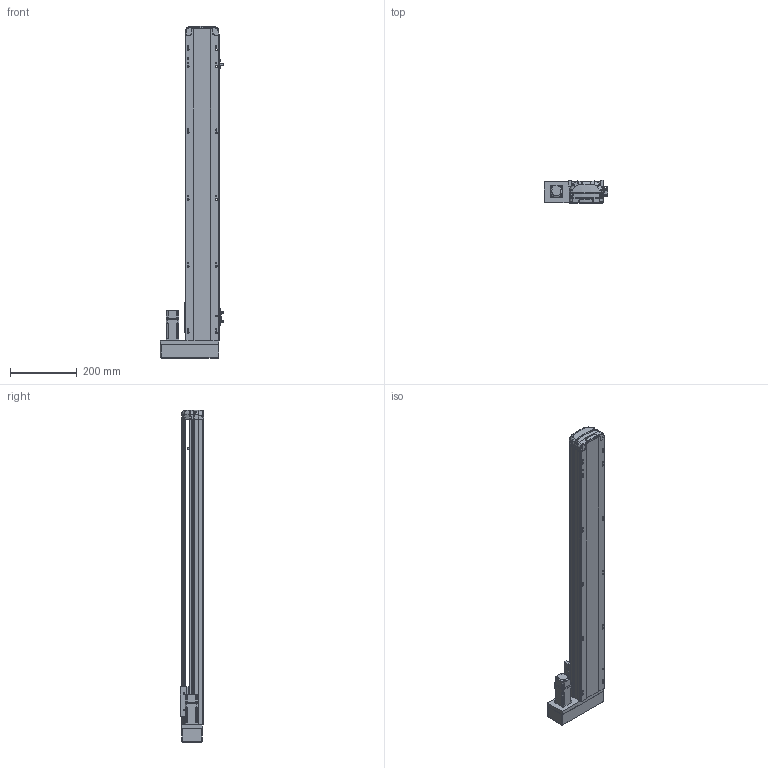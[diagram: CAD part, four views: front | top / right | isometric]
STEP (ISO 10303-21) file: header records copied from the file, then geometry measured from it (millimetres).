
FILE_DESCRIPTION (( 'STEP AP214' ), '1' );
FILE_NAME ('RTH10-XX-750-L-M10-C4.STEP', '2025-10-25T05:36:58', ( 'Microsoft' ), ( 'Microsoft' ), 'SwSTEP 2.0', 'SolidWorks 2018', '' );
FILE_SCHEMA (( 'AUTOMOTIVE_DESIGN' ));
Length unit declared in the file: millimetre
Products named in the file (10): N_P10^RTH10-XX-XX-L-M10-C4; N_OMRON EE-SX672 传感器^RTH10-XX-XX-L-M10-C4; N_RTH12-M-007P-奻裔^RTH10-XX-XX-L-M10-C4; N_RTH12-GY-001P^RTH10-XX-XX-L-M10-C4; N_RTH12-M-011P-臏倰第菁釱^RTH10-XX-XX-L-M10-C4; N_RTH13-L-012覜茼え俋离^RTH10-XX-XX-L-M10-C4; N_RTH12-L-018-裔赽^RTH10-XX-XX-L-M10-C4; N_RTH12-GY-004-賑釱^RTH10-XX-XX-L-M10-C4; N_RTH12-L-008萇儂啣^RTH10-XX-XX-L-M10-C4; RTH10-XX-750-L-M10-C4
Assembly tree (11 placements, depth 2):
  RTH10-XX-750-L-M10-C4
    N_RTH12-M-011P-臏倰第菁釱^RTH10-XX-XX-L-M10-C4
    N_RTH13-L-012覜茼え俋离^RTH10-XX-XX-L-M10-C4
    N_OMRON EE-SX672 传感器^RTH10-XX-XX-L-M10-C4  x3
    N_P10^RTH10-XX-XX-L-M10-C4
    N_RTH12-M-007P-奻裔^RTH10-XX-XX-L-M10-C4
    N_RTH12-L-008萇儂啣^RTH10-XX-XX-L-M10-C4
    N_RTH12-L-018-裔赽^RTH10-XX-XX-L-M10-C4
    N_RTH12-GY-004-賑釱^RTH10-XX-XX-L-M10-C4
    N_RTH12-GY-001P^RTH10-XX-XX-L-M10-C4
Bounding box: 190 x 70 x 997.31 mm (x, y, z)
Volume: 4295169.6 mm3; surface area: 660017.9 mm2
Topology: 10 solids, 12 shells, 1940 faces, 5422 edges, 3557 vertices
Faces by surface type: plane 951, cylinder 482, bspline 472, cone 29, sphere 4, torus 2
Entity records: 58570 total; most frequent: CARTESIAN_POINT 23309, ORIENTED_EDGE 7916, DIRECTION 6084, EDGE_CURVE 3964, VERTEX_POINT 2601, LINE 2068, VECTOR 2068, AXIS2_PLACEMENT_3D 2008
